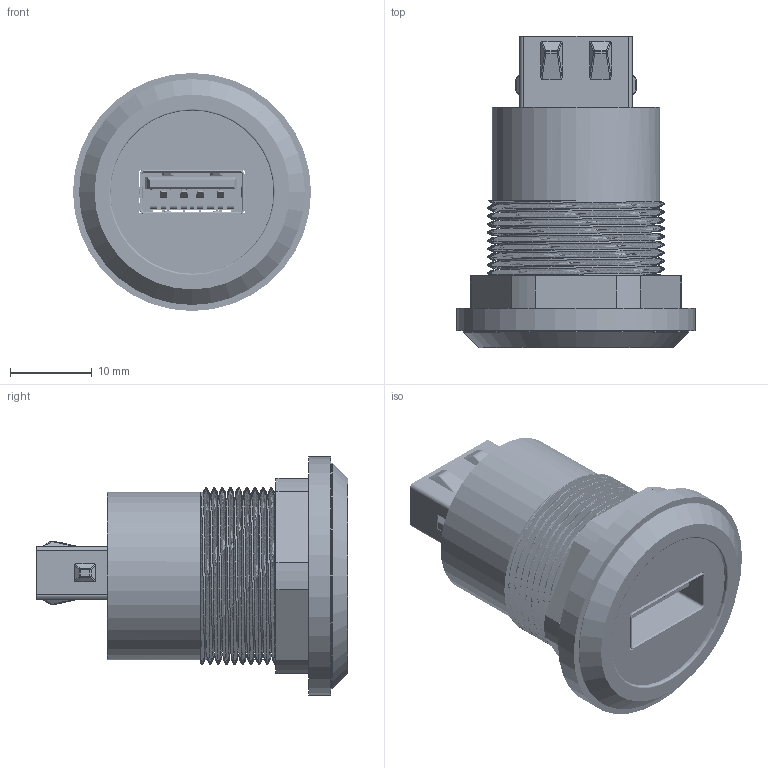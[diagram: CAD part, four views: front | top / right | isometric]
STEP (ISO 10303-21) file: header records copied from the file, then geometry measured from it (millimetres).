
FILE_DESCRIPTION(('FreeCAD Model'),'2;1');
FILE_NAME('Open CASCADE Shape Model','2024-03-05T13:34:58',(''),(''), 'Open CASCADE STEP processor 7.6','FreeCAD','Unknown');
FILE_SCHEMA(('AUTOMOTIVE_DESIGN { 1 0 10303 214 1 1 1 1 }'));
Length unit declared in the file: millimetre
Products named in the file (6): Unnamed; 49191_Coupling_nut; USB_female_frontside; 49191_Rubber O-ring; 49191_Connector; USB_female_backside
Assembly tree (5 placements, depth 2):
  Unnamed
    49191_Coupling_nut
    USB_female_frontside
    49191_Rubber O-ring
    49191_Connector
    USB_female_backside
Bounding box: 29.2 x 38.2 x 29.2 mm (x, y, z)
Volume: 2272.9 mm3; surface area: 11476.6 mm2
Topology: 10 solids, 11 shells, 2156 faces, 6190 edges, 4023 vertices
Faces by surface type: plane 1555, cylinder 450, bspline 119, sphere 21, cone 9, torus 2
Full cylindrical faces by diameter (mm): 18.6 x1, 20 x1, 20.6 x1, 25.6 x1, 27.7 x1, 29.2 x1
Entity records: 272875 total; most frequent: CARTESIAN_POINT 217209, ORIENTED_EDGE 12209, DIRECTION 10554, EDGE_CURVE 6135, LINE 4880, VECTOR 4880, VERTEX_POINT 4023, AXIS2_PLACEMENT_3D 2837
